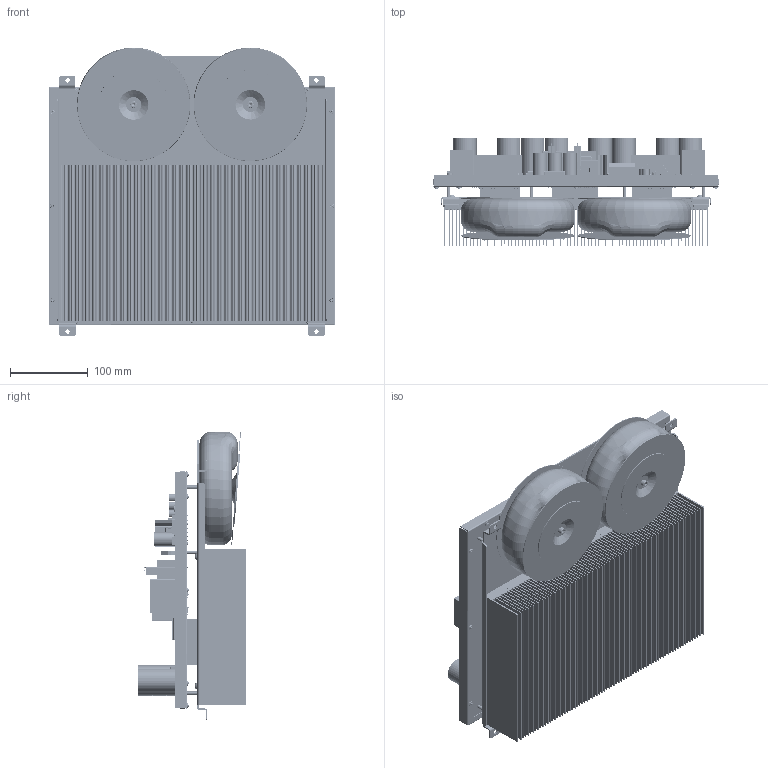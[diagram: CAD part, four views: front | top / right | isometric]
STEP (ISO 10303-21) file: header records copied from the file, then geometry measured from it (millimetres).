
FILE_DESCRIPTION (( 'STEP AP214' ), '1' );
FILE_NAME ('INV-20KW.STEP', '2024-02-13T13:10:33', ( '' ), ( '' ), 'SwSTEP 2.0', 'SolidWorks 2022', '' );
FILE_SCHEMA (( 'AUTOMOTIVE_DESIGN' ));
Length unit declared in the file: millimetre
Products named in the file (100): PD00110_01; AD00146_01; 0.061.003.00017; PC00035_01; AD00130_04; AD00224_01; AD00116_02; AD00173_01; AD00199_01; AD00048_01; PC00077_03; AD00215_01; AD00225_01; AD00168_01; AD00087_01; Clip^AD00206_01; AD00130_01; AD00005_01; ME0019_02-01; AD00120_01; AD00059_01; EL0014_02-PTH; AD00183_01; AD00003_01; EL0017_02-PTH; AD00174_01; AD00004_01; AD00056_01; INV-20KW; AD00078_01; AD00085_02; PC00047_03; Guscio^AD00206_01; Coil^AD00206_01; AD00162_01; Ferrite^AD00206_01; AD00061_01; AD00159_01; AD00095_01; Body^AD00187_02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
Assembly tree (821 placements, depth 5):
  INV-20KW
    ME0019_02
      PD00134_01
      ME0019_02-01
        PD00135_01
          PD00135_01-01
          PC00007_04  x6
          PC00072_01  x2
        PD00136_01  x2
        PD00021_02_No wires  x2
        PD00136_01_Deformato  x2
        PC00077_03  x2
        PC00091_02  x2
      PC00030_02  x4
      Pasta siliconica^ME0019_02
      PD00110_01
        PD00110_01-01
        PC00047_03  x12
      EL0017_02-PTH
        AD00052_01  x2
        AD00162_01  x2
        AD00188_01  x2
        AD00159_01  x10
        AD00046_01  x2
        AD00059_01  x4
        AD00061_01  x4
        AD00070_01  x3
        AD00056_01  x5
        AD00048_01
        AD00073_01  x8
        AD00187_04
        AD00130_01  x4
        AD00356_01
        AD00114_01
        AD00116_02
        AD00155_02
        AD00146_01
        AD00206_01
          Coil^AD00206_01
          Ferrite^AD00206_01  x2
          Clip^AD00206_01  x2
          Avvolgimenti^AD00206_01
          Guscio^AD00206_01
        AD00215_01  x4
        AD00111_01
        AD00224_01  x3
        AD00187_02
          Body^AD00187_02
        EL0017_01-SMD
          AD00177_01  x14
          AD00183_03  x6
          AD00002_01_По умолчанию  x66
          AD00183_01  x46
          AD00005_01  x195
          AD00172_01  x9
          AD00154_01  x29
          AD00006_01  x21
          AD00013_01
          AD00198_01  x4
          AD00191_01  x7
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Bounding box: 369 x 139.28 x 371 mm (x, y, z)
Volume: 5364586.6 mm3; surface area: 3106100.1 mm2
Topology: 2089 solids, 2089 shells, 53015 faces, 133593 edges, 84778 vertices
Faces by surface type: plane 37091, cylinder 12146, sphere 1437, torus 1062, bspline 780, cone 499
Entity records: 505206 total; most frequent: CARTESIAN_POINT 111130, ORIENTED_EDGE 68602, DIRECTION 68225, EDGE_CURVE 34301, LINE 24741, VECTOR 24741, VERTEX_POINT 22125, AXIS2_PLACEMENT_3D 21742
